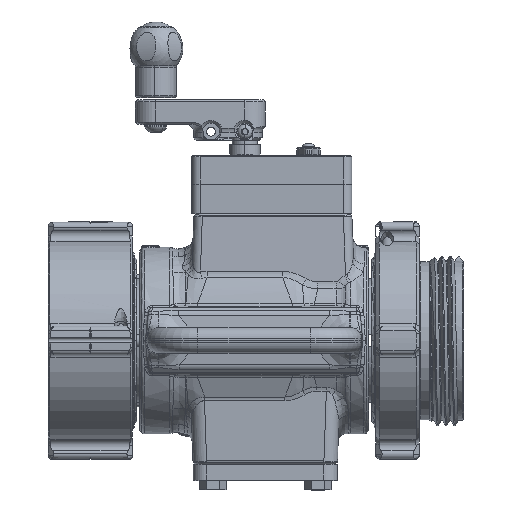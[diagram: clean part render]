
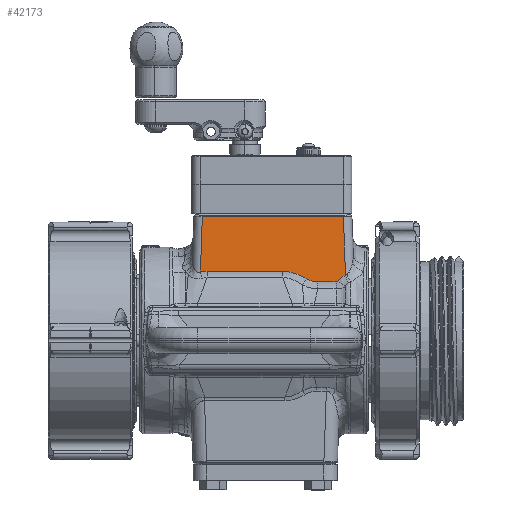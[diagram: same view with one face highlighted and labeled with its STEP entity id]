
A CAD part, top view. The second image highlights one B-rep face of the part: STEP entity #42173.
In plain terms, the highlighted planar face has unit normal (0, 0.035, 0.999).
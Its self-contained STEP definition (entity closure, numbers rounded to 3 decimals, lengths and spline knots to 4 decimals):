
#510 = CARTESIAN_POINT ( 'NONE',  ( 2.7838, 1.7952, 2.0683 ) ) ;
#619 = ORIENTED_EDGE ( 'NONE', *, *, #41404, .T. ) ;
#806 = ORIENTED_EDGE ( 'NONE', *, *, #6915, .T. ) ;
#885 = CARTESIAN_POINT ( 'NONE',  ( 2.8324, 1.8401, 2.0667 ) ) ;
#2014 = EDGE_CURVE ( 'NONE', #28941, #30367, #19746, .T. ) ;
#2092 = VERTEX_POINT ( 'NONE', #49526 ) ;
#2209 = ORIENTED_EDGE ( 'NONE', *, *, #7631, .T. ) ;
#2361 = CARTESIAN_POINT ( 'NONE',  ( -1.3106, 2.0189, 2.0604 ) ) ;
#2623 = CARTESIAN_POINT ( 'NONE',  ( 1.4181, 1.9944, 2.0613 ) ) ;
#2783 = B_SPLINE_CURVE_WITH_KNOTS ( 'NONE', 3,
 ( #3188, #7941, #20988, #26916, #7561, #2623, #49463, #57555, #34246, #38786, #43891, #11684 ),
 .UNSPECIFIED., .F., .F.,
 ( 4, 2, 2, 2, 2, 4 ),
 ( 0., 0.0046, 0.007, 0.0093, 0.0139, 0.0186 ),
 .UNSPECIFIED. ) ;
#3188 = CARTESIAN_POINT ( 'NONE',  ( 1.116, 2.0372, 2.0598 ) ) ;
#3479 = ORIENTED_EDGE ( 'NONE', *, *, #21304, .T. ) ;
#3799 = VERTEX_POINT ( 'NONE', #13264 ) ;
#3984 = CARTESIAN_POINT ( 'NONE',  ( 2.7501, 1.7569, 2.0696 ) ) ;
#4367 = CARTESIAN_POINT ( 'NONE',  ( 2.7298, 1.7391, 2.0702 ) ) ;
#5477 = ORIENTED_EDGE ( 'NONE', *, *, #53726, .T. ) ;
#5716 = VECTOR ( 'NONE', #18567, 39.3701 ) ;
#6265 = ORIENTED_EDGE ( 'NONE', *, *, #33597, .T. ) ;
#6549 = CARTESIAN_POINT ( 'NONE',  ( 2.6854, 1.7246, 2.0707 ) ) ;
#6915 = EDGE_CURVE ( 'NONE', #28012, #49660, #2783, .T. ) ;
#7198 = EDGE_CURVE ( 'NONE', #3799, #26758, #50709, .T. ) ;
#7561 = CARTESIAN_POINT ( 'NONE',  ( 1.3585, 2.0095, 2.0608 ) ) ;
#7631 = EDGE_CURVE ( 'NONE', #26758, #42764, #34694, .T. ) ;
#7941 = CARTESIAN_POINT ( 'NONE',  ( 1.1775, 2.0372, 2.0598 ) ) ;
#7989 = VECTOR ( 'NONE', #46519, 39.3701 ) ;
#8757 = CARTESIAN_POINT ( 'NONE',  ( 2.0912, 1.7246, 2.0707 ) ) ;
#9038 = CARTESIAN_POINT ( 'NONE',  ( -1.116, 2.0372, 2.0598 ) ) ;
#9581 = CARTESIAN_POINT ( 'NONE',  ( 2.9226, 1.9013, 2.0646 ) ) ;
#9617 = VECTOR ( 'NONE', #42589, 39.3701 ) ;
#11684 = CARTESIAN_POINT ( 'NONE',  ( 1.8066, 1.823, 2.0673 ) ) ;
#13264 = CARTESIAN_POINT ( 'NONE',  ( 2.1523, 1.7246, 2.0707 ) ) ;
#13841 = LINE ( 'NONE', #51696, #9617 ) ;
#14554 = ORIENTED_EDGE ( 'NONE', *, *, #40555, .T. ) ;
#15770 = CARTESIAN_POINT ( 'NONE',  ( -1.1815, 2.0372, 2.0598 ) ) ;
#17215 = CARTESIAN_POINT ( 'NONE',  ( 1.8066, 1.823, 2.0673 ) ) ;
#17771 = ORIENTED_EDGE ( 'NONE', *, *, #2014, .T. ) ;
#18438 = DIRECTION ( 'NONE',  ( -1., 0., 0. ) ) ;
#18567 = DIRECTION ( 'NONE',  ( -0.035, 0.999, -0.035 ) ) ;
#19582 = ORIENTED_EDGE ( 'NONE', *, *, #7198, .T. ) ;
#19746 = LINE ( 'NONE', #56431, #5716 ) ;
#20365 = DIRECTION ( 'NONE',  ( 1., 0., 0. ) ) ;
#20659 = CARTESIAN_POINT ( 'NONE',  ( 2.9642, 1.9169, 2.064 ) ) ;
#20872 = ORIENTED_EDGE ( 'NONE', *, *, #29361, .T. ) ;
#20988 = CARTESIAN_POINT ( 'NONE',  ( 1.2383, 2.0315, 2.06 ) ) ;
#21304 = EDGE_CURVE ( 'NONE', #34821, #53108, #39579, .T. ) ;
#22410 = CARTESIAN_POINT ( 'NONE',  ( 1.9141, 1.767, 2.0692 ) ) ;
#23475 = CARTESIAN_POINT ( 'NONE',  ( 1.116, 2.0372, 2.0598 ) ) ;
#24586 = CARTESIAN_POINT ( 'NONE',  ( -1.2505, 3.7413, 2.0003 ) ) ;
#26165 = CARTESIAN_POINT ( 'NONE',  ( 1.8589, 1.7917, 2.0684 ) ) ;
#26321 = CARTESIAN_POINT ( 'NONE',  ( 2.699, 1.7256, 2.0707 ) ) ;
#26758 = VERTEX_POINT ( 'NONE', #6549 ) ;
#26916 = CARTESIAN_POINT ( 'NONE',  ( 1.3286, 2.0159, 2.0606 ) ) ;
#28012 = VERTEX_POINT ( 'NONE', #23475 ) ;
#28182 = CARTESIAN_POINT ( 'NONE',  ( 2.7545, 1.7621, 2.0694 ) ) ;
#28941 = VERTEX_POINT ( 'NONE', #20659 ) ;
#29250 = CARTESIAN_POINT ( 'NONE',  ( -1.116, 2.0372, 2.0598 ) ) ;
#29361 = EDGE_CURVE ( 'NONE', #30367, #2092, #34605, .T. ) ;
#29442 = EDGE_LOOP ( 'NONE', ( #17771, #20872, #5477, #3479, #6265, #806, #619, #19582, #2209, #14554 ) ) ;
#29553 = CARTESIAN_POINT ( 'NONE',  ( -1.3106, 2.0189, 2.0604 ) ) ;
#30367 = VERTEX_POINT ( 'NONE', #56620 ) ;
#31282 = CARTESIAN_POINT ( 'NONE',  ( 2.7545, 1.7621, 2.0694 ) ) ;
#31519 = CARTESIAN_POINT ( 'NONE',  ( 2.1523, 1.7246, 2.0707 ) ) ;
#33416 = CARTESIAN_POINT ( 'NONE',  ( -1.2463, 2.0308, 2.06 ) ) ;
#33597 = EDGE_CURVE ( 'NONE', #53108, #28012, #13841, .T. ) ;
#34246 = CARTESIAN_POINT ( 'NONE',  ( 1.5904, 1.9347, 2.0634 ) ) ;
#34605 = LINE ( 'NONE', #45501, #53681 ) ;
#34694 = B_SPLINE_CURVE_WITH_KNOTS ( 'NONE', 3,
 ( #58342, #48887, #26321, #36005, #49643, #4367, #36195, #40125, #3984, #31282 ),
 .UNSPECIFIED., .F., .F.,
 ( 4, 2, 2, 2, 4 ),
 ( 0., 0.0005, 0.001, 0.0015, 0.0021 ),
 .UNSPECIFIED. ) ;
#34821 = VERTEX_POINT ( 'NONE', #29553 ) ;
#35820 = PLANE ( 'NONE',  #36106 ) ;
#35855 = B_SPLINE_CURVE_WITH_KNOTS ( 'NONE', 3,
 ( #28182, #55622, #510, #37256, #885, #54847, #9581, #50489 ),
 .UNSPECIFIED., .F., .F.,
 ( 4, 2, 2, 4 ),
 ( 0., 0.0017, 0.0034, 0.0067 ),
 .UNSPECIFIED. ) ;
#36005 = CARTESIAN_POINT ( 'NONE',  ( 2.7121, 1.7295, 2.0706 ) ) ;
#36106 = AXIS2_PLACEMENT_3D ( 'NONE', #49455, #39746, #48702 ) ;
#36195 = CARTESIAN_POINT ( 'NONE',  ( 2.7353, 1.7432, 2.0701 ) ) ;
#37256 = CARTESIAN_POINT ( 'NONE',  ( 2.8156, 1.8257, 2.0672 ) ) ;
#38054 = FACE_OUTER_BOUND ( 'NONE', #29442, .T. ) ;
#38786 = CARTESIAN_POINT ( 'NONE',  ( 1.7004, 1.8832, 2.0652 ) ) ;
#39579 = B_SPLINE_CURVE_WITH_KNOTS ( 'NONE', 3,
 ( #2361, #33416, #15770, #29250 ),
 .UNSPECIFIED., .F., .F.,
 ( 4, 4 ),
 ( 0., 0.005 ),
 .UNSPECIFIED. ) ;
#39746 = DIRECTION ( 'NONE',  ( 0., 0.035, 0.999 ) ) ;
#40125 = CARTESIAN_POINT ( 'NONE',  ( 2.7455, 1.7521, 2.0698 ) ) ;
#40555 = EDGE_CURVE ( 'NONE', #42764, #28941, #35855, .T. ) ;
#41404 = EDGE_CURVE ( 'NONE', #49660, #3799, #58336, .T. ) ;
#42173 = ADVANCED_FACE ( 'NONE', ( #38054 ), #35820, .T. ) ;
#42589 = DIRECTION ( 'NONE',  ( 1., 0., 0. ) ) ;
#42764 = VERTEX_POINT ( 'NONE', #50919 ) ;
#43355 = LINE ( 'NONE', #24586, #7989 ) ;
#43891 = CARTESIAN_POINT ( 'NONE',  ( 1.754, 1.8544, 2.0662 ) ) ;
#45501 = CARTESIAN_POINT ( 'NONE',  ( -1.2526, 3.6542, 2.0033 ) ) ;
#46519 = DIRECTION ( 'NONE',  ( -0.035, -0.999, 0.035 ) ) ;
#47208 = VECTOR ( 'NONE', #20365, 39.3701 ) ;
#48702 = DIRECTION ( 'NONE',  ( 0., -0.999, 0.035 ) ) ;
#48887 = CARTESIAN_POINT ( 'NONE',  ( 2.6923, 1.7246, 2.0707 ) ) ;
#49455 = CARTESIAN_POINT ( 'NONE',  ( -1.5, 3.75, 2. ) ) ;
#49463 = CARTESIAN_POINT ( 'NONE',  ( 1.4474, 1.9859, 2.0616 ) ) ;
#49526 = CARTESIAN_POINT ( 'NONE',  ( -1.2535, 3.6542, 2.0033 ) ) ;
#49643 = CARTESIAN_POINT ( 'NONE',  ( 2.7182, 1.7322, 2.0705 ) ) ;
#49660 = VERTEX_POINT ( 'NONE', #17215 ) ;
#50489 = CARTESIAN_POINT ( 'NONE',  ( 2.9642, 1.9169, 2.064 ) ) ;
#50709 = LINE ( 'NONE', #51761, #47208 ) ;
#50919 = CARTESIAN_POINT ( 'NONE',  ( 2.7545, 1.7621, 2.0694 ) ) ;
#51696 = CARTESIAN_POINT ( 'NONE',  ( 1.0887, 2.0372, 2.0598 ) ) ;
#51761 = CARTESIAN_POINT ( 'NONE',  ( 2.6854, 1.7246, 2.0707 ) ) ;
#53108 = VERTEX_POINT ( 'NONE', #9038 ) ;
#53243 = CARTESIAN_POINT ( 'NONE',  ( 2.0313, 1.733, 2.0704 ) ) ;
#53681 = VECTOR ( 'NONE', #18438, 39.3701 ) ;
#53726 = EDGE_CURVE ( 'NONE', #2092, #34821, #43355, .T. ) ;
#53818 = CARTESIAN_POINT ( 'NONE',  ( 1.8066, 1.823, 2.0673 ) ) ;
#54847 = CARTESIAN_POINT ( 'NONE',  ( 2.8848, 1.8796, 2.0653 ) ) ;
#55622 = CARTESIAN_POINT ( 'NONE',  ( 2.7688, 1.779, 2.0688 ) ) ;
#56431 = CARTESIAN_POINT ( 'NONE',  ( 2.8948, 3.9033, 1.9946 ) ) ;
#56620 = CARTESIAN_POINT ( 'NONE',  ( 2.9035, 3.6542, 2.0033 ) ) ;
#57555 = CARTESIAN_POINT ( 'NONE',  ( 1.5342, 1.9574, 2.0626 ) ) ;
#58336 = B_SPLINE_CURVE_WITH_KNOTS ( 'NONE', 3,
 ( #53818, #26165, #22410, #53243, #8757, #31519 ),
 .UNSPECIFIED., .F., .F.,
 ( 4, 2, 4 ),
 ( 0., 0.0046, 0.0092 ),
 .UNSPECIFIED. ) ;
#58342 = CARTESIAN_POINT ( 'NONE',  ( 2.6854, 1.7246, 2.0707 ) ) ;
